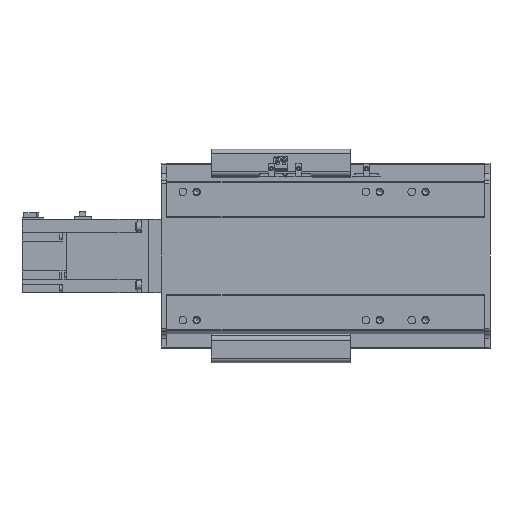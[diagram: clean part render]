
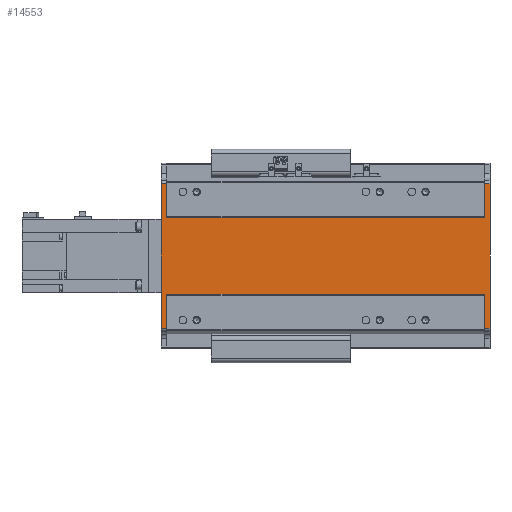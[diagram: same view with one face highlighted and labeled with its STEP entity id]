
A CAD part, front view. The second image highlights one B-rep face of the part: STEP entity #14553.
In plain terms, the highlighted planar face has unit normal (0, -1, 0).
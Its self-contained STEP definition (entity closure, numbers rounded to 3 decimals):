
#3215=ORIENTED_EDGE('',*,*,#6416,.T.);
#3216=ORIENTED_EDGE('',*,*,#6417,.F.);
#3217=ORIENTED_EDGE('',*,*,#6418,.F.);
#3218=ORIENTED_EDGE('',*,*,#6419,.F.);
#3219=ORIENTED_EDGE('',*,*,#6326,.T.);
#3220=ORIENTED_EDGE('',*,*,#6420,.T.);
#3221=ORIENTED_EDGE('',*,*,#6421,.F.);
#3222=ORIENTED_EDGE('',*,*,#6422,.F.);
#3223=ORIENTED_EDGE('',*,*,#6325,.T.);
#3224=ORIENTED_EDGE('',*,*,#6423,.T.);
#3225=ORIENTED_EDGE('',*,*,#6424,.F.);
#3226=ORIENTED_EDGE('',*,*,#6414,.T.);
#6325=EDGE_CURVE('',#8064,#8069,#9437,.T.);
#6326=EDGE_CURVE('',#8070,#8071,#9438,.T.);
#6414=EDGE_CURVE('',#8138,#8137,#9495,.T.);
#6416=EDGE_CURVE('',#8137,#8139,#9496,.T.);
#6417=EDGE_CURVE('',#8140,#8139,#9497,.T.);
#6418=EDGE_CURVE('',#8141,#8140,#9498,.T.);
#6419=EDGE_CURVE('',#8070,#8141,#9499,.T.);
#6420=EDGE_CURVE('',#8071,#8142,#9500,.T.);
#6421=EDGE_CURVE('',#8143,#8142,#9501,.T.);
#6422=EDGE_CURVE('',#8064,#8143,#9502,.T.);
#6423=EDGE_CURVE('',#8069,#8144,#9503,.T.);
#6424=EDGE_CURVE('',#8138,#8144,#9504,.T.);
#8064=VERTEX_POINT('',#23507);
#8069=VERTEX_POINT('',#23517);
#8070=VERTEX_POINT('',#23521);
#8071=VERTEX_POINT('',#23522);
#8137=VERTEX_POINT('',#23694);
#8138=VERTEX_POINT('',#23696);
#8139=VERTEX_POINT('',#23700);
#8140=VERTEX_POINT('',#23702);
#8141=VERTEX_POINT('',#23704);
#8142=VERTEX_POINT('',#23707);
#8143=VERTEX_POINT('',#23709);
#8144=VERTEX_POINT('',#23712);
#9437=LINE('',#23518,#10861);
#9438=LINE('',#23520,#10862);
#9495=LINE('',#23695,#10919);
#9496=LINE('',#23699,#10920);
#9497=LINE('',#23701,#10921);
#9498=LINE('',#23703,#10922);
#9499=LINE('',#23705,#10923);
#9500=LINE('',#23706,#10924);
#9501=LINE('',#23708,#10925);
#9502=LINE('',#23710,#10926);
#9503=LINE('',#23711,#10927);
#9504=LINE('',#23713,#10928);
#10861=VECTOR('',#18785,1000.);
#10862=VECTOR('',#18788,1000.);
#10919=VECTOR('',#18945,1000.);
#10920=VECTOR('',#18950,1000.);
#10921=VECTOR('',#18951,1000.);
#10922=VECTOR('',#18952,1000.);
#10923=VECTOR('',#18953,1000.);
#10924=VECTOR('',#18954,1000.);
#10925=VECTOR('',#18955,1000.);
#10926=VECTOR('',#18956,1000.);
#10927=VECTOR('',#18957,1000.);
#10928=VECTOR('',#18958,1000.);
#11961=EDGE_LOOP('',(#3215,#3216,#3217,#3218,#3219,#3220,#3221,#3222,#3223,
#3224,#3225,#3226));
#13043=FACE_BOUND('',#11961,.T.);
#13872=PLANE('',#15808);
#14553=ADVANCED_FACE('',(#13043),#13872,.F.);
#15808=AXIS2_PLACEMENT_3D('',#23698,#18948,#18949);
#18785=DIRECTION('',(0.,0.,-1.));
#18788=DIRECTION('',(0.,0.,-1.));
#18945=DIRECTION('',(-1.,0.,0.));
#18948=DIRECTION('',(0.,1.,0.));
#18949=DIRECTION('',(0.,0.,1.));
#18950=DIRECTION('',(0.,0.,-1.));
#18951=DIRECTION('',(-1.,0.,0.));
#18952=DIRECTION('',(0.,0.,-1.));
#18953=DIRECTION('',(-1.,0.,0.));
#18954=DIRECTION('',(1.,0.,0.));
#18955=DIRECTION('',(0.,0.,-1.));
#18956=DIRECTION('',(1.,0.,0.));
#18957=DIRECTION('',(-1.,0.,0.));
#18958=DIRECTION('',(0.,0.,-1.));
#23507=CARTESIAN_POINT('',(353.,1.,79.16));
#23517=CARTESIAN_POINT('',(353.,1.,41.793));
#23518=CARTESIAN_POINT('',(353.,1.,79.16));
#23520=CARTESIAN_POINT('',(353.,1.,84.5));
#23521=CARTESIAN_POINT('',(353.,1.,-41.793));
#23522=CARTESIAN_POINT('',(353.,1.,-79.16));
#23694=CARTESIAN_POINT('',(0.,1.,79.16));
#23695=CARTESIAN_POINT('',(6.,1.,79.16));
#23696=CARTESIAN_POINT('',(6.,1.,79.16));
#23698=CARTESIAN_POINT('',(6.,1.,79.16));
#23699=CARTESIAN_POINT('',(0.,1.,79.16));
#23700=CARTESIAN_POINT('',(0.,1.,-79.16));
#23701=CARTESIAN_POINT('',(6.,1.,-79.16));
#23702=CARTESIAN_POINT('',(6.,1.,-79.16));
#23703=CARTESIAN_POINT('',(6.,1.,79.16));
#23704=CARTESIAN_POINT('',(6.,1.,-41.793));
#23705=CARTESIAN_POINT('',(353.,1.,-41.793));
#23706=CARTESIAN_POINT('',(353.,1.,-79.16));
#23707=CARTESIAN_POINT('',(359.,1.,-79.16));
#23708=CARTESIAN_POINT('',(359.,1.,79.16));
#23709=CARTESIAN_POINT('',(359.,1.,79.16));
#23710=CARTESIAN_POINT('',(353.,1.,79.16));
#23711=CARTESIAN_POINT('',(353.,1.,41.793));
#23712=CARTESIAN_POINT('',(6.,1.,41.793));
#23713=CARTESIAN_POINT('',(6.,1.,79.16));
